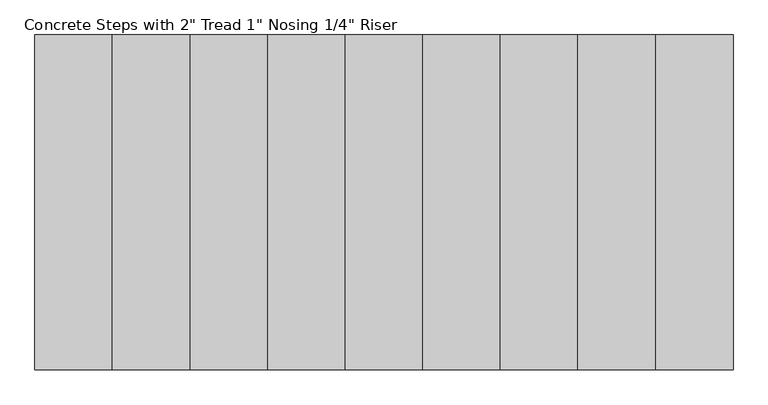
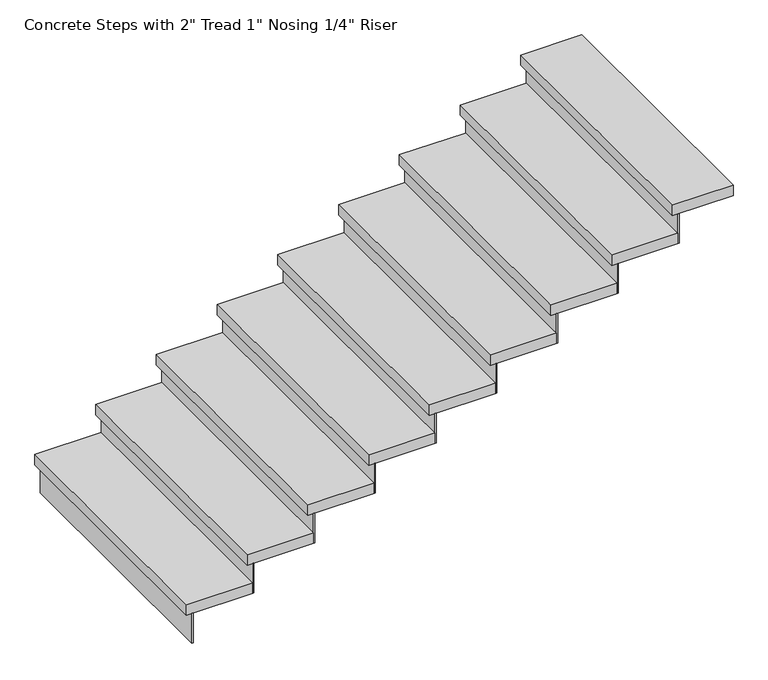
"""IFC4 building model written with IfcOpenShell, lengths in millimetres: stair flight geometry."""

from ifc_helpers import new_model, si_unit, frame, origin, place, context, project, spatial, polyline, outline, extrude, source, transform, mapped, element, save


def stair_flight_a6610861(model_context):
    return source(origin(), model_context, "Body", "SweptSolid", [
        extrude(outline(polyline([(-9956.5313244, -3862.1362112), (-9962.8813244, -3862.1362112), (-9962.8813244, -2656.2507772), (-9956.5313244, -2656.2507772), (-9956.5313244, -3862.1362112)])), frame((0.0, 0.0, 1690.9142857), z_axis=(0.0, 0.0, 1.0), x_axis=(1.0, 0.0, 0.0)), (0.0, 0.0, 1.0), 145.1428571),
        extrude(outline(polyline([(-9683.4813244, -2656.2507772), (-9683.4813244, -3862.1362112), (-9988.2813244, -3862.1362112), (-9988.2813244, -2656.2507772), (-9683.4813244, -2656.2507772)])), frame((0.0, 0.0, 1836.0571429), z_axis=(0.0, 0.0, 1.0), x_axis=(1.0, 0.0, 0.0)), (0.0, 0.0, 1.0), 50.8),
        extrude(outline(polyline([(-9677.1313244, -3862.1362112), (-9683.4813244, -3862.1362112), (-9683.4813244, -2656.2507772), (-9677.1313244, -2656.2507772), (-9677.1313244, -3862.1362112)])), frame((0.0, 0.0, 1836.0571429), z_axis=(0.0, 0.0, 1.0), x_axis=(1.0, 0.0, 0.0)), (0.0, 0.0, 1.0), 145.1428571),
        extrude(outline(polyline([(-9404.0813244, -2656.2507772), (-9404.0813244, -3862.1362112), (-9708.8813244, -3862.1362112), (-9708.8813244, -2656.2507772), (-9404.0813244, -2656.2507772)])), frame((0.0, 0.0, 1981.2), z_axis=(0.0, 0.0, 1.0), x_axis=(1.0, 0.0, 0.0)), (0.0, 0.0, 1.0), 50.8),
        extrude(outline(polyline([(-9397.7313244, -3862.1362112), (-9404.0813244, -3862.1362112), (-9404.0813244, -2656.2507772), (-9397.7313244, -2656.2507772), (-9397.7313244, -3862.1362112)])), frame((0.0, 0.0, 1981.2), z_axis=(0.0, 0.0, 1.0), x_axis=(1.0, 0.0, 0.0)), (0.0, 0.0, 1.0), 145.1428571),
        extrude(outline(polyline([(-9124.6813244, -2656.2507772), (-9124.6813244, -3862.1362112), (-9429.4813244, -3862.1362112), (-9429.4813244, -2656.2507772), (-9124.6813244, -2656.2507772)])), frame((0.0, 0.0, 2126.3428571), z_axis=(0.0, 0.0, 1.0), x_axis=(1.0, 0.0, 0.0)), (0.0, 0.0, 1.0), 50.8),
        extrude(outline(polyline([(-9118.3313244, -3862.1362112), (-9124.6813244, -3862.1362112), (-9124.6813244, -2656.2507772), (-9118.3313244, -2656.2507772), (-9118.3313244, -3862.1362112)])), frame((0.0, 0.0, 2126.3428571), z_axis=(0.0, 0.0, 1.0), x_axis=(1.0, 0.0, 0.0)), (0.0, 0.0, 1.0), 145.1428571),
        extrude(outline(polyline([(-8845.2813244, -2656.2507772), (-8845.2813244, -3862.1362112), (-9150.0813244, -3862.1362112), (-9150.0813244, -2656.2507772), (-8845.2813244, -2656.2507772)])), frame((0.0, 0.0, 2271.4857143), z_axis=(0.0, 0.0, 1.0), x_axis=(1.0, 0.0, 0.0)), (0.0, 0.0, 1.0), 50.8),
        extrude(outline(polyline([(-8838.9313244, -3862.1362112), (-8845.2813244, -3862.1362112), (-8845.2813244, -2656.2507772), (-8838.9313244, -2656.2507772), (-8838.9313244, -3862.1362112)])), frame((0.0, 0.0, 2271.4857143), z_axis=(0.0, 0.0, 1.0), x_axis=(1.0, 0.0, 0.0)), (0.0, 0.0, 1.0), 145.1428571),
        extrude(outline(polyline([(-8565.8813244, -2656.2507772), (-8565.8813244, -3862.1362112), (-8870.6813244, -3862.1362112), (-8870.6813244, -2656.2507772), (-8565.8813244, -2656.2507772)])), frame((0.0, 0.0, 2416.6285714), z_axis=(0.0, 0.0, 1.0), x_axis=(1.0, 0.0, 0.0)), (0.0, 0.0, 1.0), 50.8),
        extrude(outline(polyline([(-8559.5313244, -3862.1362112), (-8565.8813244, -3862.1362112), (-8565.8813244, -2656.2507772), (-8559.5313244, -2656.2507772), (-8559.5313244, -3862.1362112)])), frame((0.0, 0.0, 2416.6285714), z_axis=(0.0, 0.0, 1.0), x_axis=(1.0, 0.0, 0.0)), (0.0, 0.0, 1.0), 145.1428571),
        extrude(outline(polyline([(-8286.4813244, -2656.2507772), (-8286.4813244, -3862.1362112), (-8591.2813244, -3862.1362112), (-8591.2813244, -2656.2507772), (-8286.4813244, -2656.2507772)])), frame((0.0, 0.0, 2561.7714286), z_axis=(0.0, 0.0, 1.0), x_axis=(1.0, 0.0, 0.0)), (0.0, 0.0, 1.0), 50.8),
        extrude(outline(polyline([(-8280.1313244, -3862.1362112), (-8286.4813244, -3862.1362112), (-8286.4813244, -2656.2507772), (-8280.1313244, -2656.2507772), (-8280.1313244, -3862.1362112)])), frame((0.0, 0.0, 2561.7714286), z_axis=(0.0, 0.0, 1.0), x_axis=(1.0, 0.0, 0.0)), (0.0, 0.0, 1.0), 145.1428571),
        extrude(outline(polyline([(-8007.0813244, -2656.2507772), (-8007.0813244, -3862.1362112), (-8311.8813244, -3862.1362112), (-8311.8813244, -2656.2507772), (-8007.0813244, -2656.2507772)])), frame((0.0, 0.0, 2706.9142857), z_axis=(0.0, 0.0, 1.0), x_axis=(1.0, 0.0, 0.0)), (0.0, 0.0, 1.0), 50.8),
        extrude(outline(polyline([(-8000.7313244, -3862.1362112), (-8007.0813244, -3862.1362112), (-8007.0813244, -2656.2507772), (-8000.7313244, -2656.2507772), (-8000.7313244, -3862.1362112)])), frame((0.0, 0.0, 2706.9142857), z_axis=(0.0, 0.0, 1.0), x_axis=(1.0, 0.0, 0.0)), (0.0, 0.0, 1.0), 145.1428571),
        extrude(outline(polyline([(-7727.6813244, -2656.2507772), (-7727.6813244, -3862.1362112), (-8032.4813244, -3862.1362112), (-8032.4813244, -2656.2507772), (-7727.6813244, -2656.2507772)])), frame((0.0, 0.0, 2852.0571429), z_axis=(0.0, 0.0, 1.0), x_axis=(1.0, 0.0, 0.0)), (0.0, 0.0, 1.0), 50.8),
        extrude(outline(polyline([(-7721.3313244, -3862.1362112), (-7727.6813244, -3862.1362112), (-7727.6813244, -2656.2507772), (-7721.3313244, -2656.2507772), (-7721.3313244, -3862.1362112)])), frame((0.0, 0.0, 2852.0571429), z_axis=(0.0, 0.0, 1.0), x_axis=(1.0, 0.0, 0.0)), (0.0, 0.0, 1.0), 145.1428571),
        extrude(outline(polyline([(-7473.6813244, -2656.2507772), (-7473.6813244, -3862.1362112), (-7753.0813244, -3862.1362112), (-7753.0813244, -2656.2507772), (-7473.6813244, -2656.2507772)])), frame((0.0, 0.0, 2997.2), z_axis=(0.0, 0.0, 1.0), x_axis=(1.0, 0.0, 0.0)), (0.0, 0.0, 1.0), 50.8),
    ])


if __name__ == "__main__":
    model = new_model("IFC4")
    model_context = context("Model", 3, world=origin())
    ifc_project = project(units=[si_unit("LENGTHUNIT", "METRE", prefix="MILLI")], contexts=[model_context])
    site = spatial("IfcSite", under=ifc_project)
    building = spatial("IfcBuilding", under=site)
    placement = place(None, origin())
    stair_flight_shape = stair_flight_a6610861(model_context)
    element("IfcStairFlight", 1, ObjectType="Concrete Steps with 2\" Tread 1\" Nosing 1/4\" Riser", at=placement, inside=building, context=model_context, shape_type="MappedRepresentation", body=[
        mapped(stair_flight_shape, transform((0.0, 0.0, 0.0), x_axis=(1.0, 0.0, 0.0), y_axis=(0.0, 1.0, 0.0), z_axis=(0.0, 0.0, 1.0))),
    ])
    save(model, "model.ifc")
